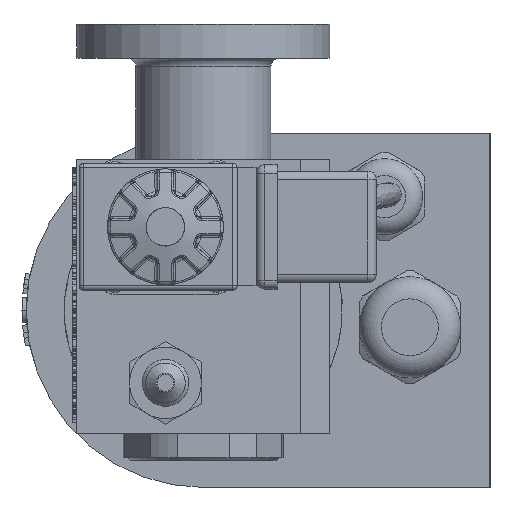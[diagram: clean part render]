
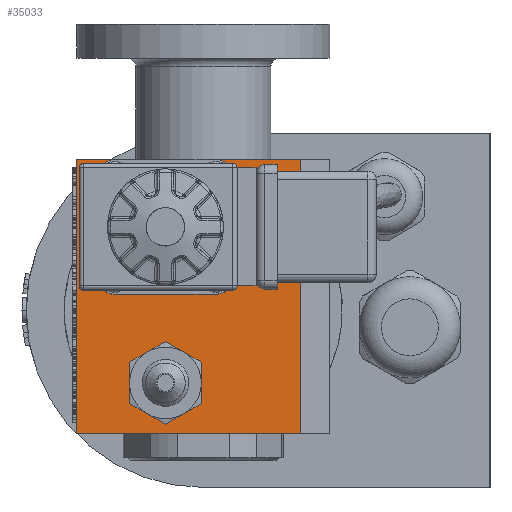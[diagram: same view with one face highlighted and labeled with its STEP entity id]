
A CAD part, left-side view. The second image highlights one B-rep face of the part: STEP entity #35033.
In plain terms, the highlighted planar face has unit normal (-1, 0, 0).
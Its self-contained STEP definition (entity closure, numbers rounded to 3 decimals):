
#811=CIRCLE('',#36485,8.5);
#812=CIRCLE('',#36487,8.5);
#813=CIRCLE('',#36489,8.5);
#814=CIRCLE('',#36491,8.5);
#815=CIRCLE('',#36493,8.5);
#816=CIRCLE('',#36495,8.5);
#922=CIRCLE('',#36777,3.975);
#923=CIRCLE('',#36778,3.975);
#924=CIRCLE('',#36779,3.975);
#925=CIRCLE('',#36780,3.975);
#2618=FACE_BOUND('',#7214,.T.);
#2619=FACE_BOUND('',#7215,.T.);
#3524=PLANE('',#36776);
#5018=FACE_OUTER_BOUND('',#7213,.T.);
#7213=EDGE_LOOP('',(#30465,#30466,#30467,#30468));
#7214=EDGE_LOOP('',(#30469,#30470,#30471,#30472,#30473,#30474));
#7215=EDGE_LOOP('',(#30475,#30476,#30477,#30478,#30479,#30480,#30481,#30482));
#10106=LINE('',#56899,#13001);
#10370=LINE('',#62990,#13265);
#10374=LINE('',#62996,#13269);
#10384=LINE('',#63137,#13279);
#10433=LINE('',#63593,#13328);
#10434=LINE('',#63597,#13329);
#10435=LINE('',#63601,#13330);
#10436=LINE('',#63605,#13331);
#13001=VECTOR('',#41544,65.);
#13265=VECTOR('',#42450,65.);
#13269=VECTOR('',#42456,53.);
#13279=VECTOR('',#42600,53.);
#13328=VECTOR('',#42755,24.);
#13329=VECTOR('',#42758,24.);
#13330=VECTOR('',#42761,24.);
#13331=VECTOR('',#42764,24.);
#16895=VERTEX_POINT('',#56889);
#16899=VERTEX_POINT('',#56897);
#17078=VERTEX_POINT('',#62396);
#17079=VERTEX_POINT('',#62400);
#17080=VERTEX_POINT('',#62406);
#17083=VERTEX_POINT('',#62417);
#17085=VERTEX_POINT('',#62427);
#17086=VERTEX_POINT('',#62436);
#17241=VERTEX_POINT('',#62987);
#17242=VERTEX_POINT('',#62989);
#17326=VERTEX_POINT('',#63591);
#17327=VERTEX_POINT('',#63592);
#17328=VERTEX_POINT('',#63594);
#17329=VERTEX_POINT('',#63596);
#17330=VERTEX_POINT('',#63598);
#17331=VERTEX_POINT('',#63600);
#17332=VERTEX_POINT('',#63602);
#17333=VERTEX_POINT('',#63604);
#21150=EDGE_CURVE('',#16895,#16899,#10106,.T.);
#21397=EDGE_CURVE('',#17078,#17079,#811,.T.);
#21399=EDGE_CURVE('',#17079,#17080,#812,.T.);
#21403=EDGE_CURVE('',#17083,#17078,#813,.T.);
#21406=EDGE_CURVE('',#17085,#17083,#814,.T.);
#21408=EDGE_CURVE('',#17080,#17086,#815,.T.);
#21411=EDGE_CURVE('',#17086,#17085,#816,.T.);
#21644=EDGE_CURVE('',#17241,#17242,#10370,.T.);
#21648=EDGE_CURVE('',#17241,#16895,#10374,.T.);
#21698=EDGE_CURVE('',#16899,#17242,#10384,.T.);
#21781=EDGE_CURVE('',#17326,#17327,#10433,.T.);
#21782=EDGE_CURVE('',#17327,#17328,#922,.T.);
#21783=EDGE_CURVE('',#17328,#17329,#10434,.T.);
#21784=EDGE_CURVE('',#17329,#17330,#923,.T.);
#21785=EDGE_CURVE('',#17330,#17331,#10435,.T.);
#21786=EDGE_CURVE('',#17331,#17332,#924,.T.);
#21787=EDGE_CURVE('',#17332,#17333,#10436,.T.);
#21788=EDGE_CURVE('',#17333,#17326,#925,.T.);
#30465=ORIENTED_EDGE('',*,*,#21644,.F.);
#30466=ORIENTED_EDGE('',*,*,#21648,.T.);
#30467=ORIENTED_EDGE('',*,*,#21150,.T.);
#30468=ORIENTED_EDGE('',*,*,#21698,.T.);
#30469=ORIENTED_EDGE('',*,*,#21397,.T.);
#30470=ORIENTED_EDGE('',*,*,#21399,.T.);
#30471=ORIENTED_EDGE('',*,*,#21408,.T.);
#30472=ORIENTED_EDGE('',*,*,#21411,.T.);
#30473=ORIENTED_EDGE('',*,*,#21406,.T.);
#30474=ORIENTED_EDGE('',*,*,#21403,.T.);
#30475=ORIENTED_EDGE('',*,*,#21781,.T.);
#30476=ORIENTED_EDGE('',*,*,#21782,.T.);
#30477=ORIENTED_EDGE('',*,*,#21783,.T.);
#30478=ORIENTED_EDGE('',*,*,#21784,.T.);
#30479=ORIENTED_EDGE('',*,*,#21785,.T.);
#30480=ORIENTED_EDGE('',*,*,#21786,.T.);
#30481=ORIENTED_EDGE('',*,*,#21787,.T.);
#30482=ORIENTED_EDGE('',*,*,#21788,.T.);
#35033=ADVANCED_FACE('',(#5018,#2618,#2619),#3524,.T.);
#36485=AXIS2_PLACEMENT_3D('',#62404,#41958,#41959);
#36487=AXIS2_PLACEMENT_3D('',#62411,#41962,#41963);
#36489=AXIS2_PLACEMENT_3D('',#62424,#41966,#41967);
#36491=AXIS2_PLACEMENT_3D('',#62434,#41970,#41971);
#36493=AXIS2_PLACEMENT_3D('',#62441,#41974,#41975);
#36495=AXIS2_PLACEMENT_3D('',#62450,#41978,#41979);
#36776=AXIS2_PLACEMENT_3D('',#63590,#42753,#42754);
#36777=AXIS2_PLACEMENT_3D('',#63595,#42756,#42757);
#36778=AXIS2_PLACEMENT_3D('',#63599,#42759,#42760);
#36779=AXIS2_PLACEMENT_3D('',#63603,#42762,#42763);
#36780=AXIS2_PLACEMENT_3D('',#63606,#42765,#42766);
#41544=DIRECTION('',(0.,0.,-1.));
#41958=DIRECTION('center_axis',(1.,0.,0.));
#41959=DIRECTION('ref_axis',(0.,0.,
1.));
#41962=DIRECTION('center_axis',(1.,0.,0.));
#41963=DIRECTION('ref_axis',(0.,0.,
1.));
#41966=DIRECTION('center_axis',(1.,0.,0.));
#41967=DIRECTION('ref_axis',(0.,0.,
1.));
#41970=DIRECTION('center_axis',(1.,0.,0.));
#41971=DIRECTION('ref_axis',(0.,0.,
1.));
#41974=DIRECTION('center_axis',(1.,0.,0.));
#41975=DIRECTION('ref_axis',(0.,0.,
1.));
#41978=DIRECTION('center_axis',(1.,0.,0.));
#41979=DIRECTION('ref_axis',(0.,0.,
1.));
#42450=DIRECTION('',(0.,0.,-1.));
#42456=DIRECTION('',(0.,1.,0.));
#42600=DIRECTION('',(0.,-1.,0.));
#42753=DIRECTION('center_axis',(-1.,0.,0.));
#42754=DIRECTION('ref_axis',(0.,0.,1.));
#42755=DIRECTION('',(0.,0.,1.));
#42756=DIRECTION('center_axis',(1.,0.,0.));
#42757=DIRECTION('ref_axis',(0.,0.,-1.));
#42758=DIRECTION('',(0.,-1.,0.));
#42759=DIRECTION('center_axis',(1.,0.,0.));
#42760=DIRECTION('ref_axis',(0.,0.,-1.));
#42761=DIRECTION('',(0.,0.,-1.));
#42762=DIRECTION('center_axis',(1.,0.,0.));
#42763=DIRECTION('ref_axis',(0.,0.,-1.));
#42764=DIRECTION('',(0.,1.,0.));
#42765=DIRECTION('center_axis',(1.,0.,0.));
#42766=DIRECTION('ref_axis',(0.,0.,-1.));
#56889=CARTESIAN_POINT('',(-28.,59.5,65.));
#56897=CARTESIAN_POINT('',(-28.,59.5,0.));
#56899=CARTESIAN_POINT('',(-28.,59.5,65.));
#62396=CARTESIAN_POINT('',(-28.,42.75,4.639));
#62400=CARTESIAN_POINT('',(-28.,47.,12.));
#62404=CARTESIAN_POINT('Origin',(-28.,38.5,12.));
#62406=CARTESIAN_POINT('',(-28.,42.75,19.361));
#62411=CARTESIAN_POINT('Origin',(-28.,38.5,12.));
#62417=CARTESIAN_POINT('',(-28.,34.25,4.639));
#62424=CARTESIAN_POINT('Origin',(-28.,38.5,12.));
#62427=CARTESIAN_POINT('',(-28.,30.,12.));
#62434=CARTESIAN_POINT('Origin',(-28.,38.5,12.));
#62436=CARTESIAN_POINT('',(-28.,34.25,19.361));
#62441=CARTESIAN_POINT('Origin',(-28.,38.5,12.));
#62450=CARTESIAN_POINT('Origin',(-28.,38.5,12.));
#62987=CARTESIAN_POINT('',(-28.,6.5,65.));
#62989=CARTESIAN_POINT('',(-28.,6.5,0.));
#62990=CARTESIAN_POINT('',(-28.,6.5,32.5));
#62996=CARTESIAN_POINT('',(-28.,-0.5,65.));
#63137=CARTESIAN_POINT('',(-28.,59.5,0.));
#63590=CARTESIAN_POINT('Origin',(-28.,29.5,32.5));
#63591=CARTESIAN_POINT('',(-28.,54.475,37.));
#63592=CARTESIAN_POINT('',(-28.,54.475,61.));
#63593=CARTESIAN_POINT('',(-28.,54.475,36.52));
#63594=CARTESIAN_POINT('',(-28.,50.5,64.975));
#63595=CARTESIAN_POINT('Origin',(-28.,50.5,61.));
#63596=CARTESIAN_POINT('',(-28.,26.5,64.975));
#63597=CARTESIAN_POINT('',(-28.,50.98,64.975));
#63598=CARTESIAN_POINT('',(-28.,22.525,61.));
#63599=CARTESIAN_POINT('Origin',(-28.,26.5,61.));
#63600=CARTESIAN_POINT('',(-28.,22.525,37.));
#63601=CARTESIAN_POINT('',(-28.,22.525,61.48));
#63602=CARTESIAN_POINT('',(-28.,26.5,33.025));
#63603=CARTESIAN_POINT('Origin',(-28.,26.5,37.));
#63604=CARTESIAN_POINT('',(-28.,50.5,33.025));
#63605=CARTESIAN_POINT('',(-28.,26.02,33.025));
#63606=CARTESIAN_POINT('Origin',(-28.,50.5,37.));
